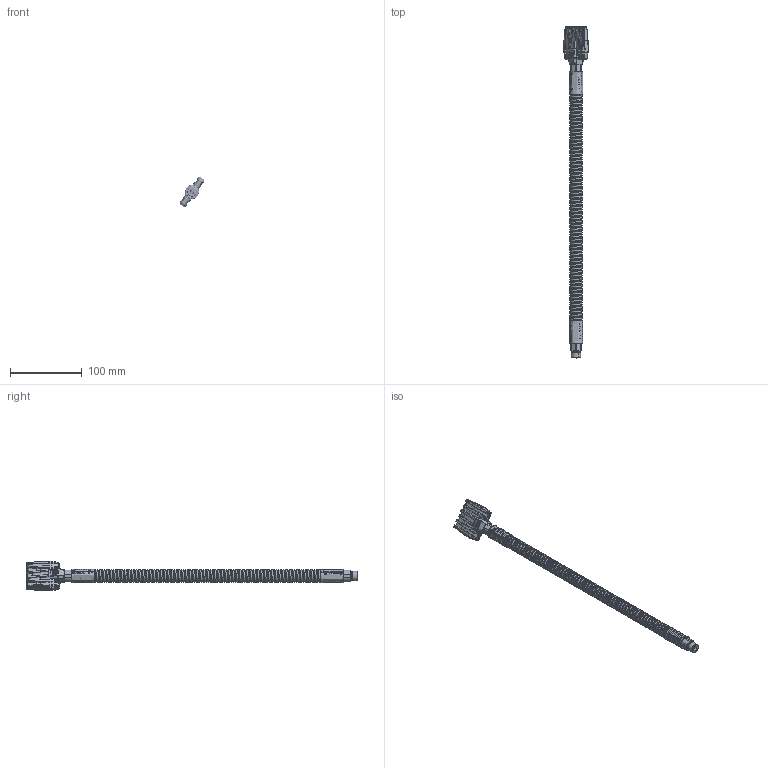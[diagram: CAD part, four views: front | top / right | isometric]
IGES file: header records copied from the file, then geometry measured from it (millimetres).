
Start section: SolidWorks IGES file using analytic representation for surfaces
Global section: file name: \\silv-file01\public$\SILVENT AB\ENGINEERING\Drawings\ÖVRIGT\IGES\9002W-S-400.IGS; native system: SolidWorks 2016; preprocessor: SolidWorks 2016; author: a.olander; date: 190910.074436; units: millimetre
Bounding box: 34.78 x 463 x 41.64 mm (x, y, z)
Surface area: 45634.8 mm2 (no closed solid volume)
Topology: 0 solids, 0 shells, 647 faces, 9579 edges, 9579 vertices
Faces by surface type: bspline 328, revolution 319
